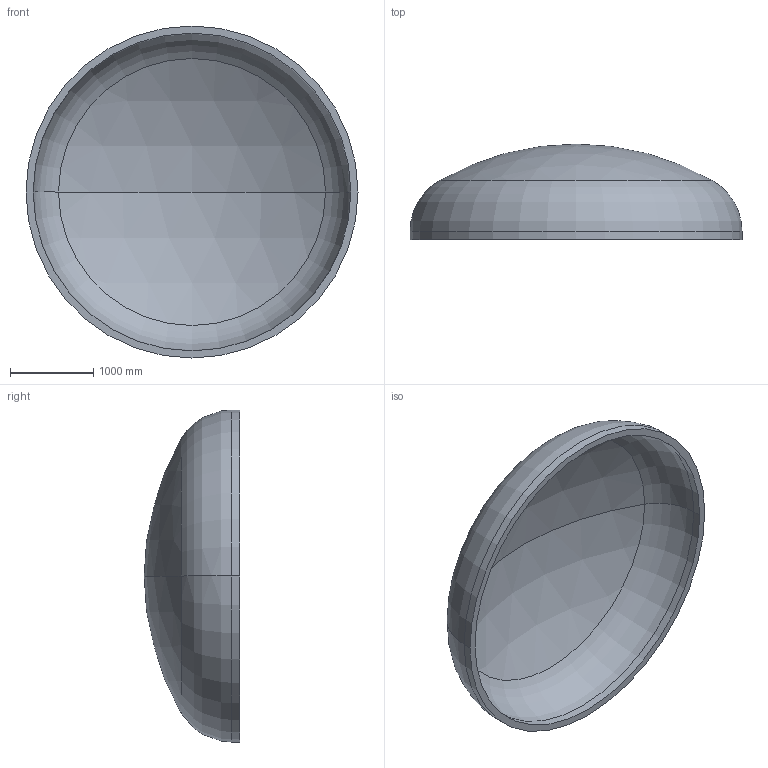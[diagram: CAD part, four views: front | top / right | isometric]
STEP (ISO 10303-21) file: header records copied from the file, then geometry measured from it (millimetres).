
FILE_DESCRIPTION (( 'STEP AP203' ), '1' );
FILE_NAME ('DIN 28013 Korbbogenform_-_Boden DIN 28013 - 4000 x 100 - I - s=86.step', '2016-07-01T22:43:19', ( '' ), ( '' ), 'SwSTEP 2.0', 'SolidWorks 2013', '' );
FILE_SCHEMA (( 'CONFIG_CONTROL_DESIGN' ));
Length unit declared in the file: millimetre
Products named in the file (1): DIN 28013 Korbbogenform_-_Boden DIN 28013 - 4000 x 100 - I - s=86
Bounding box: 4000 x 1151.09 x 4000 mm (x, y, z)
Volume: 1560314632.1 mm3; surface area: 37359336.8 mm2
Topology: 1 solids, 1 shells, 13 faces, 24 edges, 14 vertices
Faces by surface type: torus 4, cylinder 4, sphere 4, plane 1
Entity records: 407 total; most frequent: DIRECTION 72, CARTESIAN_POINT 52, ORIENTED_EDGE 48, AXIS2_PLACEMENT_3D 34, EDGE_CURVE 24, CIRCLE 20, EDGE_LOOP 14, VERTEX_POINT 14
